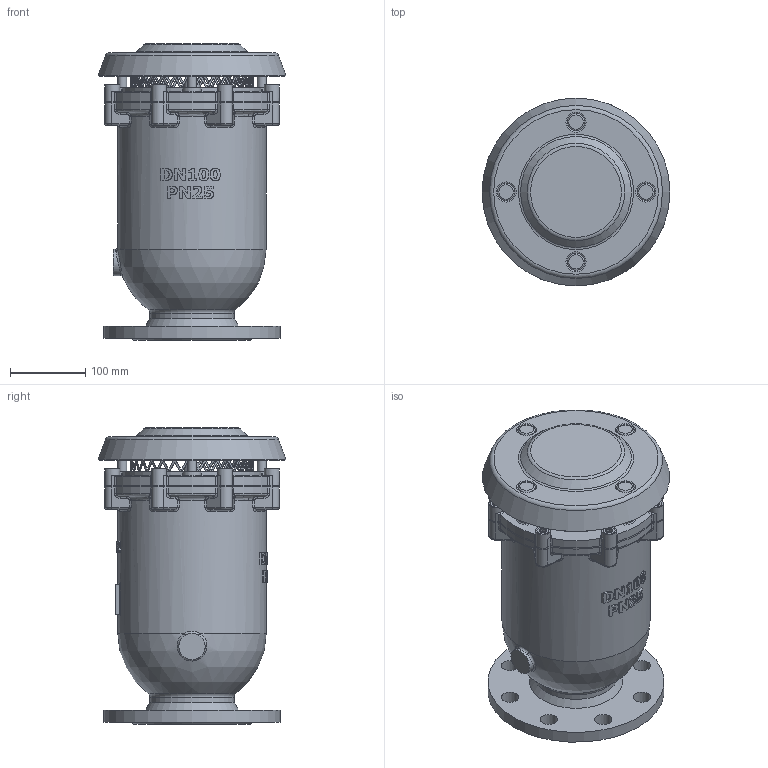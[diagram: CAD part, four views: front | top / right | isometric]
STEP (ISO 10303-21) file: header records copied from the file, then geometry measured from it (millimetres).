
FILE_DESCRIPTION(('STEP AP242'), '1');
FILE_NAME('Âîçäóøíûé êëàïàí DUOJET KX', '', ('UNSPECIFIED'), ('UNSPECIFIED'), 'C3D Converter', 'C3D Toolkit', '');
FILE_SCHEMA(('AP242_MANAGED_MODEL_BASED_3D_ENGINEERING_MIM_LF { 1 0 10303 442 1 1 4 }'));
Length unit declared in the file: millimetre
Assembly tree (33 placements, depth 2):
  (unnamed)
    (unnamed)
    (unnamed)
    (unnamed)
    (unnamed)
    (unnamed)
    (unnamed)
    (unnamed)  x4
    (unnamed)  x4
    (unnamed)
    (unnamed)
    (unnamed)
    (unnamed)  x8
    (unnamed)  x4
    (unnamed)  x4
Bounding box: 250 x 250 x 395 mm (x, y, z)
Volume: 3369477 mm3; surface area: 1366485.3 mm2
Topology: 47 solids, 48 shells, 1627 faces, 4191 edges, 2721 vertices
Faces by surface type: plane 549, bspline 412, cylinder 386, extrusion 134, torus 76, cone 57, sphere 13
Full cylindrical faces by diameter (mm): 5.4 x4, 6 x15, 7 x8, 8 x4, 9 x2, 10 x32, 12 x4, 14 x4, 16 x16, 18.274 x1, 20 x8, 23 x8, 25 x2, 31 x1, 35 x1, 100 x2, 112 x1, 135 x2, 141 x1, 158 x1, 162 x4, 164 x1, 174 x2, 186 x1, 196 x2, 198 x3, 235 x1
Entity records: 121399 total; most frequent: CARTESIAN_POINT 86559, ORIENTED_EDGE 7112, DIRECTION 4764, EDGE_CURVE 3556, VERTEX_POINT 2399, EDGE_LOOP 1827, AXIS2_PLACEMENT_3D 1811, B_SPLINE_CURVE_WITH_KNOTS 1733
